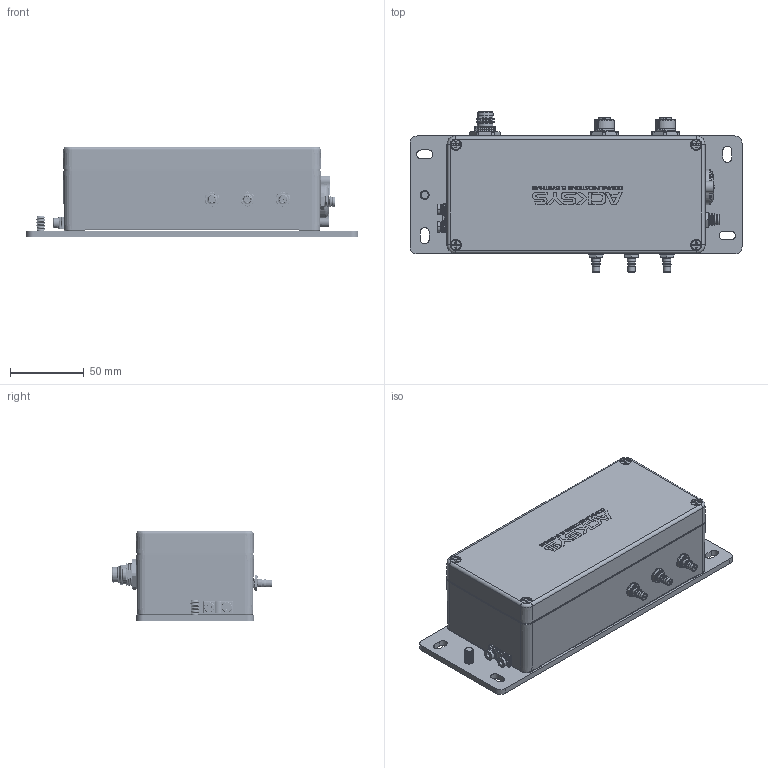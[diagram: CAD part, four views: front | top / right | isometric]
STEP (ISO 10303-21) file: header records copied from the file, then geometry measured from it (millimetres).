
FILE_DESCRIPTION((''),'2;1');
FILE_NAME('WLn-RailBox_1+WL-PLT-1.3D(step_ap214).A1.stp','2015-02-27T17:45:49',('J.COLLANGE'),('ACKSYS'),'Mechanical Desktop 2011','Mechanical Desktop 2011','ZA du Val Joyeux - 10 Rue des entrepreneurs, 78450 VILLEPREUX - FRANCE, ');
FILE_SCHEMA(('AUTOMOTIVE_DESIGN { 1 2 10303 214 1 1 1 1 }'));
Length unit declared in the file: millimetre
Products named in the file (2): Product; QMA
Bounding box: 225 x 108.65 x 61.05 mm (x, y, z)
Volume: 285056.9 mm3; surface area: 168407.8 mm2
Topology: 35 solids, 44 shells, 4106 faces, 10802 edges, 6870 vertices
Faces by surface type: plane 1877, cylinder 884, cone 565, bspline 417, torus 288, sphere 75
Entity records: 133970 total; most frequent: CARTESIAN_POINT 43298, ORIENTED_EDGE 19502, DIRECTION 18458, EDGE_CURVE 9751, AXIS2_PLACEMENT_3D 6576, VERTEX_POINT 6295, VECTOR 5306, LINE 5306
